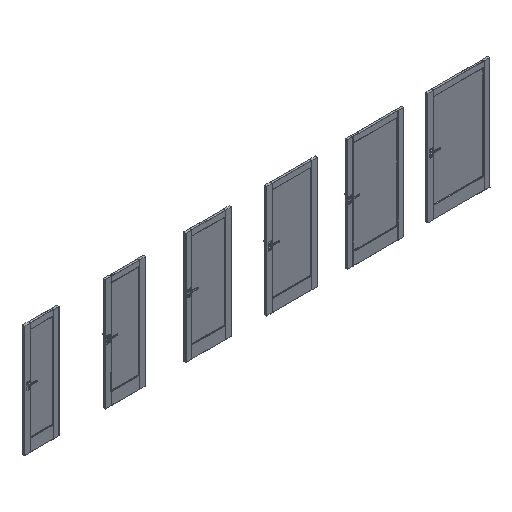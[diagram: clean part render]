
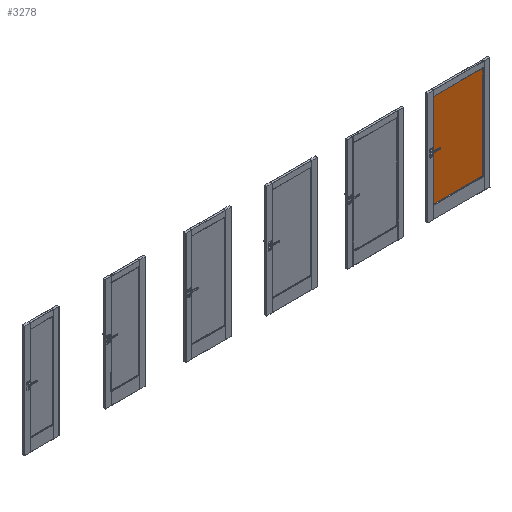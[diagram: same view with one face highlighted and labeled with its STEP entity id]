
A CAD part, isometric view. The second image highlights one B-rep face of the part: STEP entity #3278.
In plain terms, the highlighted planar face has unit normal (0, -1, 0).
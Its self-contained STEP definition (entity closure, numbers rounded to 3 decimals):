
#2000=FACE_OUTER_BOUND('',#6320,.T.);
#3278=ADVANCED_FACE('',(#2000),#4374,.F.);
#4374=PLANE('',#22791);
#6320=EDGE_LOOP('',(#9578,#9579,#9580,#9581));
#9578=ORIENTED_EDGE('',*,*,#16544,.F.);
#9579=ORIENTED_EDGE('',*,*,#16545,.T.);
#9580=ORIENTED_EDGE('',*,*,#16546,.T.);
#9581=ORIENTED_EDGE('',*,*,#16547,.T.);
#14212=VERTEX_POINT('',#34677);
#14213=VERTEX_POINT('',#34678);
#14214=VERTEX_POINT('',#34680);
#14215=VERTEX_POINT('',#34682);
#16544=EDGE_CURVE('',#14212,#14213,#19202,.T.);
#16545=EDGE_CURVE('',#14212,#14214,#19203,.T.);
#16546=EDGE_CURVE('',#14214,#14215,#19204,.T.);
#16547=EDGE_CURVE('',#14215,#14213,#19205,.T.);
#19202=LINE('',#34676,#20954);
#19203=LINE('',#34679,#20955);
#19204=LINE('',#34681,#20956);
#19205=LINE('',#34683,#20957);
#20954=VECTOR('',#26441,1.);
#20955=VECTOR('',#26442,1.);
#20956=VECTOR('',#26443,1.);
#20957=VECTOR('',#26444,1.);
#22791=AXIS2_PLACEMENT_3D('',#34684,#26445,#26446);
#26441=DIRECTION('',(0.,0.,-1.));
#26442=DIRECTION('',(-1.,0.,0.));
#26443=DIRECTION('',(0.,0.,-1.));
#26444=DIRECTION('',(1.,0.,0.));
#26445=DIRECTION('',(0.,1.,0.));
#26446=DIRECTION('',(0.,0.,1.));
#34676=CARTESIAN_POINT('',(7954.,-21.95,1925.8));
#34677=CARTESIAN_POINT('',(7954.,-21.95,1912.181));
#34678=CARTESIAN_POINT('',(7954.,-21.95,219.765));
#34679=CARTESIAN_POINT('',(6465.,-21.95,1912.181));
#34680=CARTESIAN_POINT('',(7046.,-21.95,1912.181));
#34681=CARTESIAN_POINT('',(7046.,-21.95,0.));
#34682=CARTESIAN_POINT('',(7046.,-21.95,219.765));
#34683=CARTESIAN_POINT('',(6465.,-21.95,219.765));
#34684=CARTESIAN_POINT('',(7732.,-21.95,1925.8));
